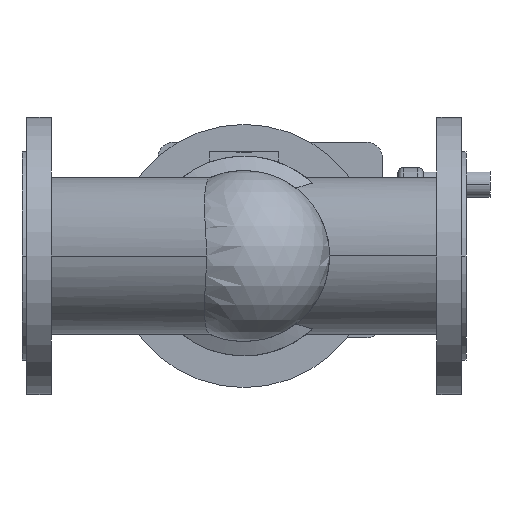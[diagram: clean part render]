
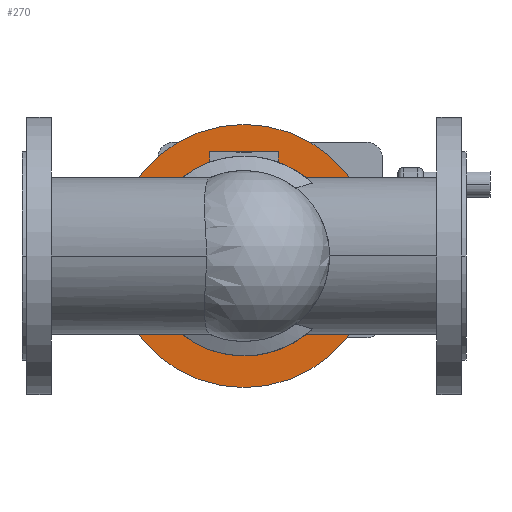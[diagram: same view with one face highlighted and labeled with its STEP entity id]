
A CAD part, front view. The second image highlights one B-rep face of the part: STEP entity #270.
In plain terms, the highlighted planar face has unit normal (0, -1, 0).
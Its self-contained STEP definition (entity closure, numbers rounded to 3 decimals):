
#270 = ADVANCED_FACE( '', ( #690, #691 ), #692, .T. );
#690 = FACE_BOUND( '', #1191, .T. );
#691 = FACE_OUTER_BOUND( '', #1192, .T. );
#692 = PLANE( '', #1193 );
#1191 = EDGE_LOOP( '', ( #2523, #2524 ) );
#1192 = EDGE_LOOP( '', ( #2525, #2526 ) );
#1193 = AXIS2_PLACEMENT_3D( '', #2527, #2528, #2529 );
#2523 = ORIENTED_EDGE( '', *, *, #3099, .F. );
#2524 = ORIENTED_EDGE( '', *, *, #3459, .F. );
#2525 = ORIENTED_EDGE( '', *, *, #3097, .T. );
#2526 = ORIENTED_EDGE( '', *, *, #3461, .T. );
#2527 = CARTESIAN_POINT( '', ( 95.75, 114.2, 0. ) );
#2528 = DIRECTION( '', ( 0., -1., 0. ) );
#2529 = DIRECTION( '', ( -1., 0., 0. ) );
#3097 = EDGE_CURVE( '', #3646, #3650, #3652, .T. );
#3099 = EDGE_CURVE( '', #3653, #3656, #3657, .T. );
#3459 = EDGE_CURVE( '', #3656, #3653, #4254, .T. );
#3461 = EDGE_CURVE( '', #3650, #3646, #4256, .T. );
#3646 = VERTEX_POINT( '', #4630 );
#3650 = VERTEX_POINT( '', #4635 );
#3652 = CIRCLE( '', #4638, 118.5 );
#3653 = VERTEX_POINT( '', #4639 );
#3656 = VERTEX_POINT( '', #4643 );
#3657 = CIRCLE( '', #4644, 90. );
#4254 = CIRCLE( '', #5888, 90. );
#4256 = CIRCLE( '', #5890, 118.5 );
#4630 = CARTESIAN_POINT( '', ( 81.5, 114.2, 0. ) );
#4635 = CARTESIAN_POINT( '', ( 318.5, 114.2, 0. ) );
#4638 = AXIS2_PLACEMENT_3D( '', #6284, #6285, #6286 );
#4639 = CARTESIAN_POINT( '', ( 110., 114.2, 0. ) );
#4643 = CARTESIAN_POINT( '', ( 290., 114.2, 0. ) );
#4644 = AXIS2_PLACEMENT_3D( '', #6288, #6289, #6290 );
#5888 = AXIS2_PLACEMENT_3D( '', #6986, #6987, #6988 );
#5890 = AXIS2_PLACEMENT_3D( '', #6992, #6993, #6994 );
#6284 = CARTESIAN_POINT( '', ( 200., 114.2, 0. ) );
#6285 = DIRECTION( '', ( 0., -1., 0. ) );
#6286 = DIRECTION( '', ( -1., 0., 0. ) );
#6288 = CARTESIAN_POINT( '', ( 200., 114.2, 0. ) );
#6289 = DIRECTION( '', ( 0., -1., 0. ) );
#6290 = DIRECTION( '', ( -1., 0., 0. ) );
#6986 = CARTESIAN_POINT( '', ( 200., 114.2, 0. ) );
#6987 = DIRECTION( '', ( 0., -1., 0. ) );
#6988 = DIRECTION( '', ( -1., 0., 0. ) );
#6992 = CARTESIAN_POINT( '', ( 200., 114.2, 0. ) );
#6993 = DIRECTION( '', ( 0., -1., 0. ) );
#6994 = DIRECTION( '', ( -1., 0., 0. ) );
